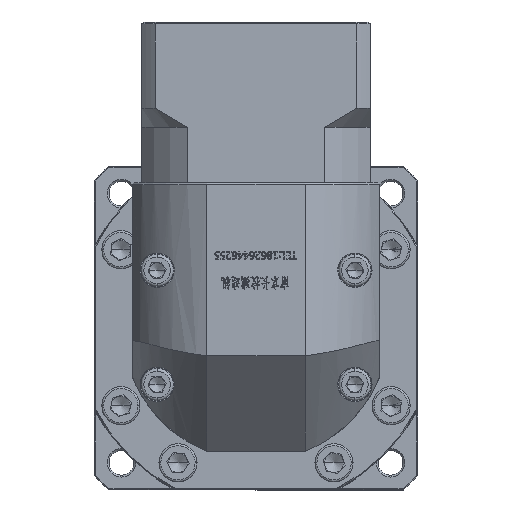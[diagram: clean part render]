
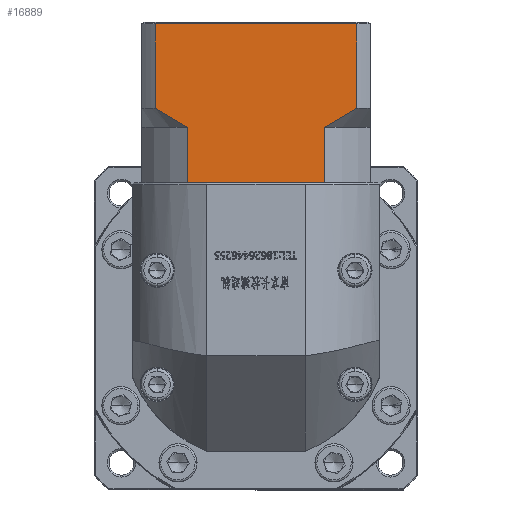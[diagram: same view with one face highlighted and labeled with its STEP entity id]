
A CAD part, top view. The second image highlights one B-rep face of the part: STEP entity #16889.
In plain terms, the highlighted planar face has unit normal (0, 0, 1).
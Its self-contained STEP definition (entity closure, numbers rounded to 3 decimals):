
#574 = CARTESIAN_POINT ( 'NONE',  ( 33.186, 145.666, 71.211 ) ) ;
#2216 = VERTEX_POINT ( 'NONE', #166476 ) ;
#10003 = CARTESIAN_POINT ( 'NONE',  ( 33.186, 145.666, 71.211 ) ) ;
#11612 = DIRECTION ( 'NONE',  ( 0., 0., -1. ) ) ;
#14864 = CARTESIAN_POINT ( 'NONE',  ( 32.195, 131.166, 71.211 ) ) ;
#16282 = LINE ( 'NONE', #132318, #46642 ) ;
#16834 = CARTESIAN_POINT ( 'NONE',  ( -2.87, 145.666, 71.211 ) ) ;
#16889 = ADVANCED_FACE ( 'NONE', ( #70669 ), #139585, .F. ) ;
#20820 = EDGE_CURVE ( 'NONE', #55854, #122757, #76534, .T. ) ;
#22715 = CARTESIAN_POINT ( 'NONE',  ( -5.753, 147.218, 71.211 ) ) ;
#26537 = EDGE_CURVE ( 'NONE', #29121, #119594, #64510, .T. ) ;
#29121 = VERTEX_POINT ( 'NONE', #155872 ) ;
#35174 = LINE ( 'NONE', #134831, #99660 ) ;
#35738 = CARTESIAN_POINT ( 'NONE',  ( -2.87, 145.666, 71.211 ) ) ;
#35993 = VECTOR ( 'NONE', #94031, 1000. ) ;
#36013 = CARTESIAN_POINT ( 'NONE',  ( 33.186, 131.166, 71.211 ) ) ;
#37011 = LINE ( 'NONE', #163388, #135700 ) ;
#40246 = VERTEX_POINT ( 'NONE', #72596 ) ;
#40534 = VERTEX_POINT ( 'NONE', #106245 ) ;
#40923 = ORIENTED_EDGE ( 'NONE', *, *, #48516, .T. ) ;
#44781 = DIRECTION ( 'NONE',  ( 0., -1., 0. ) ) ;
#46642 = VECTOR ( 'NONE', #80659, 1000. ) ;
#47949 = DIRECTION ( 'NONE',  ( 1., 0., 0. ) ) ;
#48516 = EDGE_CURVE ( 'NONE', #55854, #40534, #118214, .T. ) ;
#48586 = CARTESIAN_POINT ( 'NONE',  ( -14.842, 172.866, 71.211 ) ) ;
#49024 = CARTESIAN_POINT ( 'NONE',  ( 36.068, 147.217, 71.211 ) ) ;
#54715 = ORIENTED_EDGE ( 'NONE', *, *, #153122, .F. ) ;
#55854 = VERTEX_POINT ( 'NONE', #574 ) ;
#57036 = ORIENTED_EDGE ( 'NONE', *, *, #88787, .T. ) ;
#58634 = EDGE_CURVE ( 'NONE', #40246, #2216, #81039, .T. ) ;
#58871 = EDGE_CURVE ( 'NONE', #107425, #2216, #157444, .T. ) ;
#59433 = CARTESIAN_POINT ( 'NONE',  ( -9.939, 149.767, 71.211 ) ) ;
#61908 = CARTESIAN_POINT ( 'NONE',  ( 40.253, 149.765, 71.211 ) ) ;
#64510 = LINE ( 'NONE', #152226, #128880 ) ;
#66732 = CARTESIAN_POINT ( 'NONE',  ( -11.299, 145.666, 71.211 ) ) ;
#67287 = ORIENTED_EDGE ( 'NONE', *, *, #58871, .T. ) ;
#69725 = EDGE_CURVE ( 'NONE', #29121, #151054, #104553, .T. ) ;
#70669 = FACE_OUTER_BOUND ( 'NONE', #147715, .T. ) ;
#71482 = ORIENTED_EDGE ( 'NONE', *, *, #26537, .T. ) ;
#72596 = CARTESIAN_POINT ( 'NONE',  ( -11.299, 150.666, 71.211 ) ) ;
#74494 = DIRECTION ( 'NONE',  ( -1., 0., 0. ) ) ;
#75224 = CARTESIAN_POINT ( 'NONE',  ( -1.879, 131.166, 71.211 ) ) ;
#76534 = LINE ( 'NONE', #114107, #145030 ) ;
#79032 = ORIENTED_EDGE ( 'NONE', *, *, #155378, .T. ) ;
#80659 = DIRECTION ( 'NONE',  ( 1., 0., 0. ) ) ;
#81039 = LINE ( 'NONE', #66732, #149519 ) ;
#87999 = DIRECTION ( 'NONE',  ( 0., -1., 0. ) ) ;
#88787 = EDGE_CURVE ( 'NONE', #119594, #116928, #16282, .T. ) ;
#88935 = CARTESIAN_POINT ( 'NONE',  ( -14.842, 173.366, 71.211 ) ) ;
#94031 = DIRECTION ( 'NONE',  ( 0., 1., 0. ) ) ;
#99660 = VECTOR ( 'NONE', #44781, 1000. ) ;
#99954 = CARTESIAN_POINT ( 'NONE',  ( -8.561, 148.893, 71.211 ) ) ;
#100270 = CARTESIAN_POINT ( 'NONE',  ( 34.642, 146.416, 71.211 ) ) ;
#101868 = DIRECTION ( 'NONE',  ( 0., 1., 0. ) ) ;
#104553 = LINE ( 'NONE', #16834, #35993 ) ;
#106245 = CARTESIAN_POINT ( 'NONE',  ( 41.616, 150.666, 71.211 ) ) ;
#107425 = VERTEX_POINT ( 'NONE', #143416 ) ;
#109221 = VECTOR ( 'NONE', #74494, 1000. ) ;
#112891 = CARTESIAN_POINT ( 'NONE',  ( -4.322, 146.414, 71.211 ) ) ;
#114107 = CARTESIAN_POINT ( 'NONE',  ( 33.186, 145.666, 71.211 ) ) ;
#114170 = AXIS2_PLACEMENT_3D ( 'NONE', #88935, #11612, #101868 ) ;
#116928 = VERTEX_POINT ( 'NONE', #14864 ) ;
#118214 = B_SPLINE_CURVE_WITH_KNOTS ( 'NONE', 3,
 ( #10003, #100270, #49024, #139111, #61908, #152147 ),
 .UNSPECIFIED., .F., .F.,
 ( 4, 2, 4 ),
 ( 0.1, 0.104, 0.109 ),
 .UNSPECIFIED. ) ;
#118791 = CARTESIAN_POINT ( 'NONE',  ( -2.87, 145.666, 71.211 ) ) ;
#119594 = VERTEX_POINT ( 'NONE', #75224 ) ;
#122757 = VERTEX_POINT ( 'NONE', #36013 ) ;
#123683 = EDGE_CURVE ( 'NONE', #116928, #122757, #37011, .T. ) ;
#124125 = ORIENTED_EDGE ( 'NONE', *, *, #123683, .T. ) ;
#126722 = DIRECTION ( 'NONE',  ( 1., 0., 0. ) ) ;
#126819 = ORIENTED_EDGE ( 'NONE', *, *, #69725, .F. ) ;
#128880 = VECTOR ( 'NONE', #126722, 1000. ) ;
#132318 = CARTESIAN_POINT ( 'NONE',  ( -14.842, 131.166, 71.211 ) ) ;
#133830 = ORIENTED_EDGE ( 'NONE', *, *, #20820, .F. ) ;
#134831 = CARTESIAN_POINT ( 'NONE',  ( 41.616, 145.666, 71.211 ) ) ;
#135700 = VECTOR ( 'NONE', #47949, 1000. ) ;
#139111 = CARTESIAN_POINT ( 'NONE',  ( 38.873, 148.891, 71.211 ) ) ;
#139585 = PLANE ( 'NONE',  #114170 ) ;
#143416 = CARTESIAN_POINT ( 'NONE',  ( 41.616, 172.866, 71.211 ) ) ;
#145030 = VECTOR ( 'NONE', #87999, 1000. ) ;
#147715 = EDGE_LOOP ( 'NONE', ( #54715, #67287, #156600, #79032, #126819, #71482, #57036, #124125, #133830, #40923 ) ) ;
#149519 = VECTOR ( 'NONE', #156890, 1000. ) ;
#151054 = VERTEX_POINT ( 'NONE', #118791 ) ;
#151272 = CARTESIAN_POINT ( 'NONE',  ( -11.299, 150.666, 71.211 ) ) ;
#152147 = CARTESIAN_POINT ( 'NONE',  ( 41.616, 150.666, 71.211 ) ) ;
#152226 = CARTESIAN_POINT ( 'NONE',  ( -14.842, 131.166, 71.211 ) ) ;
#152969 = B_SPLINE_CURVE_WITH_KNOTS ( 'NONE', 3,
 ( #151272, #59433, #99954, #22715, #112891, #35738 ),
 .UNSPECIFIED., .F., .F.,
 ( 4, 2, 4 ),
 ( 0.052, 0.057, 0.062 ),
 .UNSPECIFIED. ) ;
#153122 = EDGE_CURVE ( 'NONE', #107425, #40534, #35174, .T. ) ;
#155378 = EDGE_CURVE ( 'NONE', #40246, #151054, #152969, .T. ) ;
#155872 = CARTESIAN_POINT ( 'NONE',  ( -2.87, 131.166, 71.211 ) ) ;
#156600 = ORIENTED_EDGE ( 'NONE', *, *, #58634, .F. ) ;
#156890 = DIRECTION ( 'NONE',  ( 0., 1., 0. ) ) ;
#157444 = LINE ( 'NONE', #48586, #109221 ) ;
#163388 = CARTESIAN_POINT ( 'NONE',  ( -14.842, 131.166, 71.211 ) ) ;
#166476 = CARTESIAN_POINT ( 'NONE',  ( -11.299, 172.866, 71.211 ) ) ;
